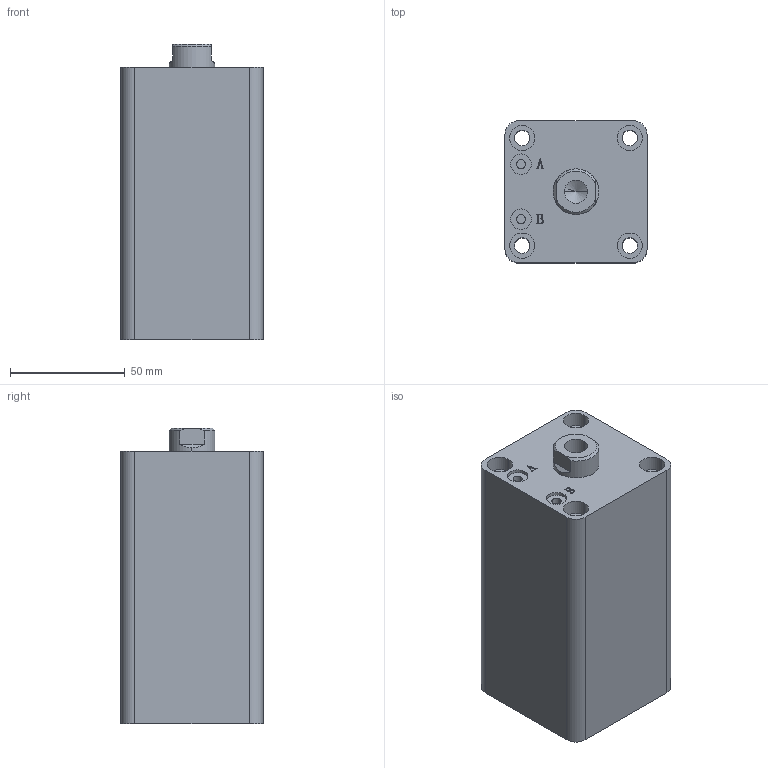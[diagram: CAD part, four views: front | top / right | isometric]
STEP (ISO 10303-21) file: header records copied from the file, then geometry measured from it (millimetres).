
FILE_DESCRIPTION (( 'STEP AP203' ), '1' );
FILE_NAME ('HTB-SDMA32-65N.STEP', '2019-10-07T11:42:49', ( '微软用户' ), ( '微软中国' ), 'SwSTEP 2.0', 'SolidWorks 2012', '' );
FILE_SCHEMA (( 'CONFIG_CONTROL_DESIGN' ));
Length unit declared in the file: millimetre
Products named in the file (3): HTB-SDMA32-65N; HTB-SDMA32-65N活塞杆; HTB-SDMA32-65掛极
Assembly tree (2 placements, depth 2):
  HTB-SDMA32-65N
    HTB-SDMA32-65掛极
    HTB-SDMA32-65N活塞杆
Bounding box: 62 x 62 x 129 mm (x, y, z)
Volume: 402572.7 mm3; surface area: 68064.9 mm2
Topology: 2 solids, 2 shells, 137 faces, 331 edges, 217 vertices
Faces by surface type: plane 65, cylinder 46, bspline 16, torus 6, cone 4
Entity records: 5070 total; most frequent: CARTESIAN_POINT 1576, ORIENTED_EDGE 658, DIRECTION 647, EDGE_CURVE 329, AXIS2_PLACEMENT_3D 232, VERTEX_POINT 217, VECTOR 183, LINE 183
